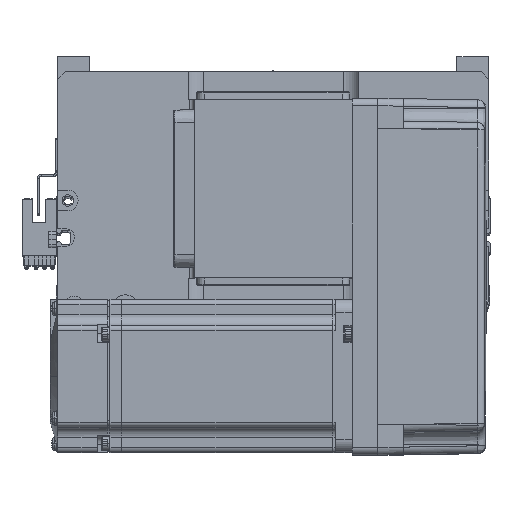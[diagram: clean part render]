
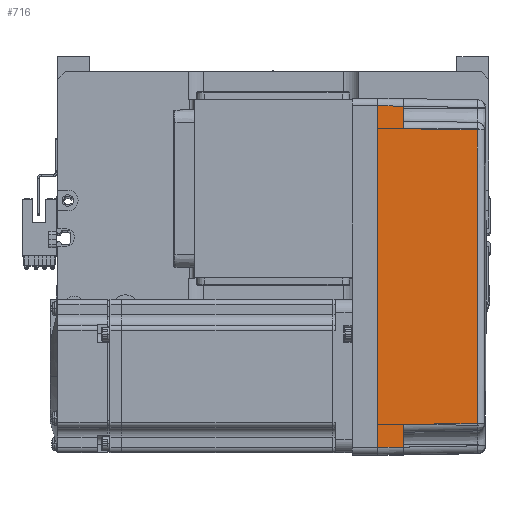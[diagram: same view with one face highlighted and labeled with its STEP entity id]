
A CAD part, top view. The second image highlights one B-rep face of the part: STEP entity #716.
In plain terms, the highlighted planar face has unit normal (0.018, 0, 1) as drawn and (0, 1, 0.017) by its records, which use the part's own axes.
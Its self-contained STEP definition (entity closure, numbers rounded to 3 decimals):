
#716 = ADVANCED_FACE ( 'NONE', ( #29066 ), #3412, .T. ) ;
#3412 = PLANE ( 'NONE',  #35342 ) ;
#3524 = CARTESIAN_POINT ( 'NONE',  ( 58., 35.825, 10. ) ) ;
#4730 = LINE ( 'NONE', #34377, #57503 ) ;
#5463 = VECTOR ( 'NONE', #36974, 1000. ) ;
#6220 = EDGE_CURVE ( 'NONE', #47289, #17843, #10755, .T. ) ;
#6645 = VERTEX_POINT ( 'NONE', #29230 ) ;
#7595 = DIRECTION ( 'NONE',  ( 0.017, 0.017, -1. ) ) ;
#7830 = VECTOR ( 'NONE', #53564, 1000. ) ;
#8124 = CARTESIAN_POINT ( 'NONE',  ( 70., 36., 0. ) ) ;
#8903 = EDGE_CURVE ( 'NONE', #38024, #43138, #36786, .T. ) ;
#9173 = VECTOR ( 'NONE', #7595, 1000. ) ;
#9980 = EDGE_CURVE ( 'NONE', #6645, #54078, #4730, .T. ) ;
#10755 = LINE ( 'NONE', #16416, #7830 ) ;
#13960 = VECTOR ( 'NONE', #50136, 1000. ) ;
#14171 = EDGE_CURVE ( 'NONE', #54078, #14849, #52598, .T. ) ;
#14849 = VERTEX_POINT ( 'NONE', #56384 ) ;
#15153 = VECTOR ( 'NONE', #21386, 1000. ) ;
#16022 = EDGE_LOOP ( 'NONE', ( #21193, #54718, #47394, #47176, #27453, #17696, #16343, #36217 ) ) ;
#16343 = ORIENTED_EDGE ( 'NONE', *, *, #14171, .F. ) ;
#16416 = CARTESIAN_POINT ( 'NONE',  ( 70., 35.825, 10. ) ) ;
#16743 = CARTESIAN_POINT ( 'NONE',  ( -58., 35.825, 10. ) ) ;
#17696 = ORIENTED_EDGE ( 'NONE', *, *, #48543, .T. ) ;
#17843 = VERTEX_POINT ( 'NONE', #16743 ) ;
#21193 = ORIENTED_EDGE ( 'NONE', *, *, #40726, .T. ) ;
#21386 = DIRECTION ( 'NONE',  ( -0.017, -0.017, 1. ) ) ;
#21540 = LINE ( 'NONE', #59602, #9173 ) ;
#21604 = CARTESIAN_POINT ( 'NONE',  ( -57.495, 35.32, 38.985 ) ) ;
#22374 = CARTESIAN_POINT ( 'NONE',  ( 70., 35.825, 10. ) ) ;
#22547 = CARTESIAN_POINT ( 'NONE',  ( 57.495, 35.32, 38.985 ) ) ;
#23872 = CARTESIAN_POINT ( 'NONE',  ( 57.495, 35.32, 38.985 ) ) ;
#24291 = EDGE_CURVE ( 'NONE', #17843, #38024, #49879, .T. ) ;
#27453 = ORIENTED_EDGE ( 'NONE', *, *, #56330, .T. ) ;
#29066 = FACE_OUTER_BOUND ( 'NONE', #16022, .T. ) ;
#29230 = CARTESIAN_POINT ( 'NONE',  ( -67., 36., 0. ) ) ;
#30269 = LINE ( 'NONE', #22374, #5463 ) ;
#30782 = DIRECTION ( 'NONE',  ( 0., -0.017, 1. ) ) ;
#31841 = VECTOR ( 'NONE', #44911, 1000. ) ;
#34377 = CARTESIAN_POINT ( 'NONE',  ( 0., 36., 0. ) ) ;
#35342 = AXIS2_PLACEMENT_3D ( 'NONE', #8124, #40855, #30782 ) ;
#36217 = ORIENTED_EDGE ( 'NONE', *, *, #9980, .F. ) ;
#36405 = VERTEX_POINT ( 'NONE', #3524 ) ;
#36786 = B_SPLINE_CURVE_WITH_KNOTS ( 'NONE', 3,
 ( #59915, #55464, #46024, #22547 ),
 .UNSPECIFIED., .F., .F.,
 ( 4, 4 ),
 ( 0., 1. ),
 .UNSPECIFIED. ) ;
#36974 = DIRECTION ( 'NONE',  ( 1., 0., 0. ) ) ;
#38024 = VERTEX_POINT ( 'NONE', #21604 ) ;
#38984 = CARTESIAN_POINT ( 'NONE',  ( -66.826, 35.825, 10. ) ) ;
#40270 = CARTESIAN_POINT ( 'NONE',  ( -58., 35.825, 10. ) ) ;
#40726 = EDGE_CURVE ( 'NONE', #6645, #47289, #45874, .T. ) ;
#40855 = DIRECTION ( 'NONE',  ( 0., 1., 0.017 ) ) ;
#43138 = VERTEX_POINT ( 'NONE', #23872 ) ;
#43257 = DIRECTION ( 'NONE',  ( 1., 0., 0. ) ) ;
#44911 = DIRECTION ( 'NONE',  ( 0.017, -0.017, 1. ) ) ;
#45874 = LINE ( 'NONE', #49381, #31841 ) ;
#46024 = CARTESIAN_POINT ( 'NONE',  ( 19.165, 35.316, 39.181 ) ) ;
#47176 = ORIENTED_EDGE ( 'NONE', *, *, #8903, .T. ) ;
#47289 = VERTEX_POINT ( 'NONE', #38984 ) ;
#47394 = ORIENTED_EDGE ( 'NONE', *, *, #24291, .T. ) ;
#48543 = EDGE_CURVE ( 'NONE', #36405, #14849, #30269, .T. ) ;
#49381 = CARTESIAN_POINT ( 'NONE',  ( -67., 36., 0. ) ) ;
#49879 = LINE ( 'NONE', #40270, #13960 ) ;
#50136 = DIRECTION ( 'NONE',  ( 0.017, -0.017, 1. ) ) ;
#51777 = CARTESIAN_POINT ( 'NONE',  ( 67.001, 36.001, -0.052 ) ) ;
#52598 = LINE ( 'NONE', #51777, #15153 ) ;
#53564 = DIRECTION ( 'NONE',  ( 1., 0., 0. ) ) ;
#54078 = VERTEX_POINT ( 'NONE', #54081 ) ;
#54081 = CARTESIAN_POINT ( 'NONE',  ( 67., 36., 0. ) ) ;
#54718 = ORIENTED_EDGE ( 'NONE', *, *, #6220, .T. ) ;
#55464 = CARTESIAN_POINT ( 'NONE',  ( -19.165, 35.316, 39.181 ) ) ;
#56330 = EDGE_CURVE ( 'NONE', #43138, #36405, #21540, .T. ) ;
#56384 = CARTESIAN_POINT ( 'NONE',  ( 66.826, 35.825, 10. ) ) ;
#57503 = VECTOR ( 'NONE', #43257, 1000. ) ;
#59602 = CARTESIAN_POINT ( 'NONE',  ( 57.495, 35.32, 38.985 ) ) ;
#59915 = CARTESIAN_POINT ( 'NONE',  ( -57.495, 35.32, 38.985 ) ) ;
